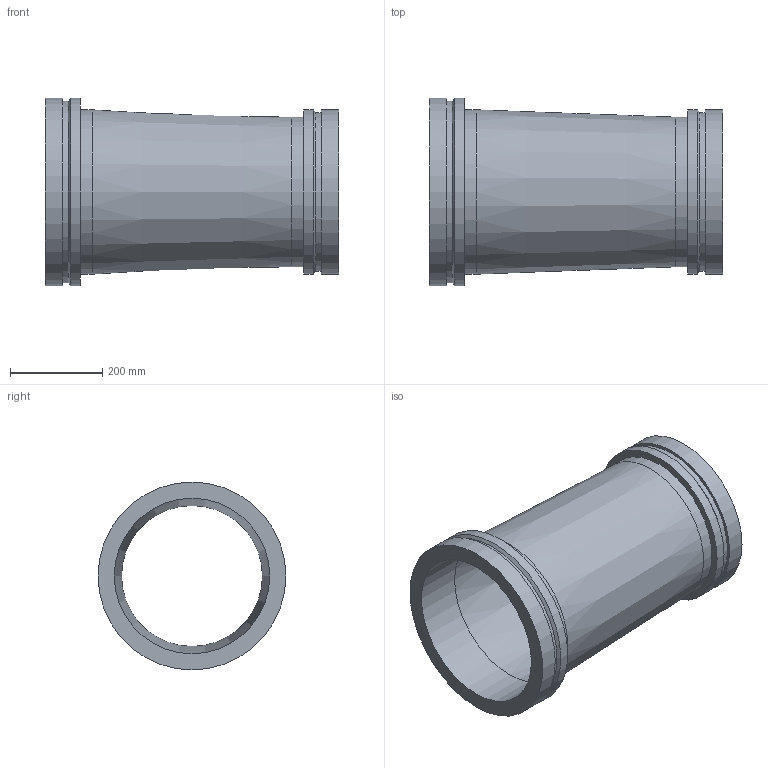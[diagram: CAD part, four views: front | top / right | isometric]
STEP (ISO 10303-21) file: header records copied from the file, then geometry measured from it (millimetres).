
FILE_DESCRIPTION(/* description */ ('VIC REDUCER CONCENTRIC No W50 VR','CAx-IF Rec.Pracs.---Representation and Presentation of Product Manufacturing Information (PMI)---4.0---2014-10-13'),/* implementation_level */ '2;1');
FILE_NAME(/* name */ 'C:\Users\kkamble\AppData\Roaming\Autodesk\ApplicationPlugins\Back Up\Victaulic_Vic-Ring_Reducer Concentric_No W50 VR (AGR)\Victaulic_Vic-Ring_Reducer Concentric_No W50 VR (AGR)_14.0x12.0 (350x300).stp',/* time_stamp */ '2020-09-10T11:45:05+05:00',/* author */ ('cps_temp'),/* organization */ ('Victaulic'),/* preprocessor_version */ 'ST-DEVELOPER v17.2',/* originating_system */ 'Autodesk Inventor 2019',/* authorisation */ '');
FILE_SCHEMA (('AP242_MANAGED_MODEL_BASED_3D_ENGINEERING_MIM_LF { 1 0 10303 442 1 1 4 }'));
Length unit declared in the file: inch
Products named in the file (1): W50 VR-14.0x12.0
Bounding box: 635 x 406.4 x 406.4 mm (x, y, z)
Volume: 9669230.2 mm3; surface area: 1473042.2 mm2
Topology: 1 solids, 1 shells, 20 faces, 54 edges, 40 vertices
Faces by surface type: cylinder 10, plane 6, cone 4
Full cylindrical faces by diameter (mm): 304.8 x1, 323.85 x1, 336.55 x1, 342.9 x1, 355.6 x3, 393.7 x1, 406.4 x2
Entity records: 830 total; most frequent: DIRECTION 162, CARTESIAN_POINT 132, ORIENTED_EDGE 108, AXIS2_PLACEMENT_3D 74, EDGE_CURVE 54, CIRCLE 40, VERTEX_POINT 40, EDGE_LOOP 26
